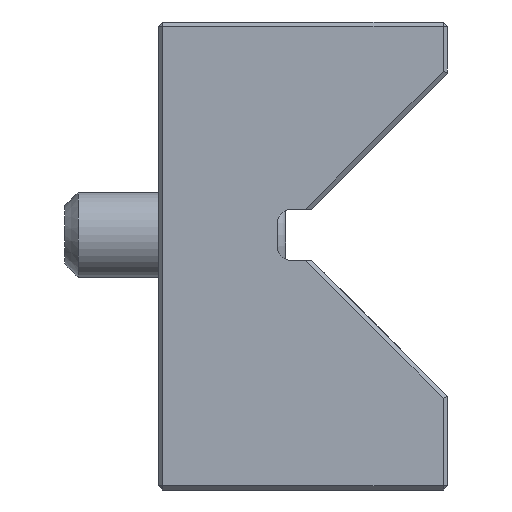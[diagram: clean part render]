
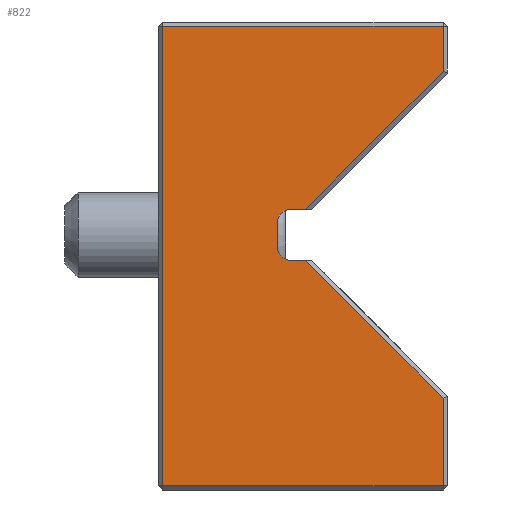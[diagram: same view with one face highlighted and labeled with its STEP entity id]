
A CAD part, left-side view. The second image highlights one B-rep face of the part: STEP entity #822.
In plain terms, the highlighted planar face has unit normal (-1, 0, 0).
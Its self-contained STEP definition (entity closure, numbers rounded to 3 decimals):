
#822=ADVANCED_FACE('',(#1728),#1730,.F.);
#1728=FACE_BOUND('',#1729,.T.);
#1729=EDGE_LOOP('',(#2360,#2361,#2362,#2363,#2364,#2365,#2366,#2367,#2368,#2369,
#2370,#2371));
#1730=PLANE('',#1731);
#1731=AXIS2_PLACEMENT_3D('',#1732,#1733,#1734);
#1732=CARTESIAN_POINT('',(-80.,0.,0.));
#1733=DIRECTION('',(1.,0.,0.));
#1734=DIRECTION('',(0.,1.,0.));
#2360=ORIENTED_EDGE('',*,*,#2697,.T.);
#2361=ORIENTED_EDGE('',*,*,#2656,.T.);
#2362=ORIENTED_EDGE('',*,*,#2652,.T.);
#2363=ORIENTED_EDGE('',*,*,#2676,.T.);
#2364=ORIENTED_EDGE('',*,*,#2674,.T.);
#2365=ORIENTED_EDGE('',*,*,#2672,.T.);
#2366=ORIENTED_EDGE('',*,*,#2698,.T.);
#2367=ORIENTED_EDGE('',*,*,#2699,.F.);
#2368=ORIENTED_EDGE('',*,*,#2688,.F.);
#2369=ORIENTED_EDGE('',*,*,#2637,.F.);
#2370=ORIENTED_EDGE('',*,*,#2685,.F.);
#2371=ORIENTED_EDGE('',*,*,#2700,.F.);
#2637=EDGE_CURVE('',#3016,#3014,#3018,.T.);
#2652=EDGE_CURVE('',#3035,#3033,#3036,.T.);
#2656=EDGE_CURVE('',#3039,#3035,#3042,.T.);
#2672=EDGE_CURVE('',#3069,#3067,#3070,.T.);
#2674=EDGE_CURVE('',#3072,#3069,#3073,.T.);
#2676=EDGE_CURVE('',#3033,#3072,#3075,.T.);
#2685=EDGE_CURVE('',#3087,#3016,#3089,.T.);
#2688=EDGE_CURVE('',#3014,#3092,#3093,.T.);
#2697=EDGE_CURVE('',#3106,#3039,#3107,.T.);
#2698=EDGE_CURVE('',#3067,#3108,#3109,.T.);
#2699=EDGE_CURVE('',#3092,#3108,#3110,.T.);
#2700=EDGE_CURVE('',#3106,#3087,#3111,.T.);
#3014=VERTEX_POINT('',#4157);
#3016=VERTEX_POINT('',#4161);
#3018=LINE('',#4165,#4166);
#3033=VERTEX_POINT('',#4209);
#3035=VERTEX_POINT('',#4213);
#3036=CIRCLE('',#4214,1.6);
#3039=VERTEX_POINT('',#4222);
#3042=LINE('',#4229,#4230);
#3067=VERTEX_POINT('',#4285);
#3069=VERTEX_POINT('',#4289);
#3070=LINE('',#4290,#4291);
#3072=VERTEX_POINT('',#4296);
#3073=CIRCLE('',#4297,1.6);
#3075=LINE('',#4304,#4305);
#3087=VERTEX_POINT('',#4332);
#3089=LINE('',#4336,#4337);
#3092=VERTEX_POINT('',#4345);
#3093=LINE('',#4346,#4347);
#3106=VERTEX_POINT('',#4377);
#3107=LINE('',#4378,#4379);
#3108=VERTEX_POINT('',#4381);
#3109=LINE('',#4382,#4383);
#3110=LINE('',#4385,#4386);
#3111=LINE('',#4388,#4389);
#4157=CARTESIAN_POINT('',(-80.,16.5,24.5));
#4161=CARTESIAN_POINT('',(-80.,16.5,-29.5));
#4165=CARTESIAN_POINT('',(-80.,16.5,-29.5));
#4166=VECTOR('',#4167,1.);
#4167=DIRECTION('',(0.,0.,1.));
#4209=CARTESIAN_POINT('',(-80.,3.,-1.4));
#4213=CARTESIAN_POINT('',(-80.,1.4,-3.));
#4214=AXIS2_PLACEMENT_3D('',#4215,#4216,#4217);
#4215=CARTESIAN_POINT('',(-80.,1.4,-1.4));
#4216=DIRECTION('',(1.,0.,0.));
#4217=DIRECTION('',(0.,0.,-1.));
#4222=CARTESIAN_POINT('',(-80.,-0.293,-3.));
#4229=CARTESIAN_POINT('',(-80.,-0.293,-3.));
#4230=VECTOR('',#4231,1.);
#4231=DIRECTION('',(0.,1.,0.));
#4285=CARTESIAN_POINT('',(-80.,-0.293,3.));
#4289=CARTESIAN_POINT('',(-80.,1.4,3.));
#4290=CARTESIAN_POINT('',(-80.,1.4,3.));
#4291=VECTOR('',#4292,1.);
#4292=DIRECTION('',(0.,-1.,0.));
#4296=CARTESIAN_POINT('',(-80.,3.,1.4));
#4297=AXIS2_PLACEMENT_3D('',#4298,#4299,#4300);
#4298=CARTESIAN_POINT('',(-80.,1.4,1.4));
#4299=DIRECTION('',(1.,0.,0.));
#4300=DIRECTION('',(0.,1.,0.));
#4304=CARTESIAN_POINT('',(-80.,3.,-1.4));
#4305=VECTOR('',#4306,1.);
#4306=DIRECTION('',(0.,0.,1.));
#4332=CARTESIAN_POINT('',(-80.,-16.5,-29.5));
#4336=CARTESIAN_POINT('',(-80.,-16.5,-29.5));
#4337=VECTOR('',#4338,1.);
#4338=DIRECTION('',(0.,1.,0.));
#4345=CARTESIAN_POINT('',(-80.,-16.5,24.5));
#4346=CARTESIAN_POINT('',(-80.,16.5,24.5));
#4347=VECTOR('',#4348,1.);
#4348=DIRECTION('',(0.,-1.,0.));
#4377=CARTESIAN_POINT('',(-80.,-16.5,-19.207));
#4378=CARTESIAN_POINT('',(-80.,-16.5,-19.207));
#4379=VECTOR('',#4380,1.);
#4380=DIRECTION('',(0.,0.707,0.707));
#4381=CARTESIAN_POINT('',(-80.,-16.5,19.207));
#4382=CARTESIAN_POINT('',(-80.,-0.293,3.));
#4383=VECTOR('',#4384,1.);
#4384=DIRECTION('',(0.,-0.707,0.707));
#4385=CARTESIAN_POINT('',(-80.,-16.5,24.5));
#4386=VECTOR('',#4387,1.);
#4387=DIRECTION('',(0.,0.,-1.));
#4388=CARTESIAN_POINT('',(-80.,-16.5,-19.207));
#4389=VECTOR('',#4390,1.);
#4390=DIRECTION('',(0.,0.,-1.));
